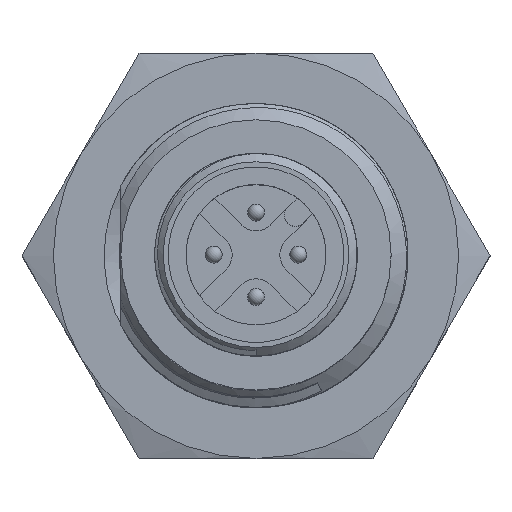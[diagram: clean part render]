
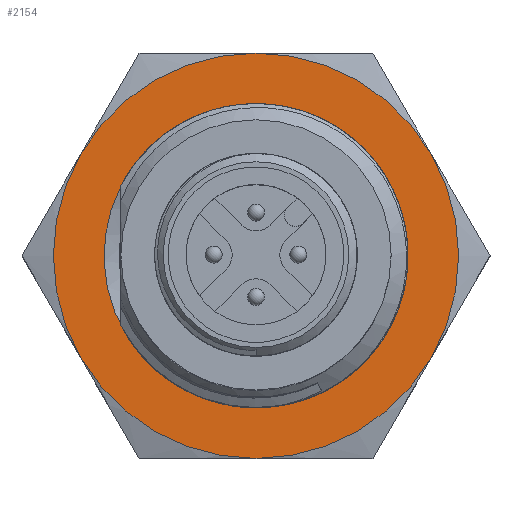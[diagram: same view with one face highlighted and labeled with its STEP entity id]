
A CAD part, top view. The second image highlights one B-rep face of the part: STEP entity #2154.
In plain terms, the highlighted planar face has unit normal (0, 0, 1).
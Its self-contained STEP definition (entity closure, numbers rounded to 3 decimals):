
#1928=FACE_BOUND('',#2647,.T.);
#1929=FACE_BOUND('',#2648,.T.);
#1977=PLANE('',#5367);
#2154=ADVANCED_FACE('',(#1928,#1929),#1977,.T.);
#2647=EDGE_LOOP('',(#3716,#3717));
#2648=EDGE_LOOP('',(#3718,#3719,#3720,#3721,#3722,#3723));
#2749=CIRCLE('',#5278,9.);
#2769=CIRCLE('',#5353,9.);
#2770=CIRCLE('',#5361,12.);
#2771=CIRCLE('',#5362,12.);
#2772=CIRCLE('',#5363,12.);
#2773=CIRCLE('',#5364,12.);
#2774=CIRCLE('',#5365,12.);
#2775=CIRCLE('',#5366,12.);
#3716=ORIENTED_EDGE('',*,*,#4417,.T.);
#3717=ORIENTED_EDGE('',*,*,#4737,.T.);
#3718=ORIENTED_EDGE('',*,*,#4768,.F.);
#3719=ORIENTED_EDGE('',*,*,#4769,.F.);
#3720=ORIENTED_EDGE('',*,*,#4770,.F.);
#3721=ORIENTED_EDGE('',*,*,#4771,.F.);
#3722=ORIENTED_EDGE('',*,*,#4772,.F.);
#3723=ORIENTED_EDGE('',*,*,#4773,.F.);
#4021=VERTEX_POINT('',#7215);
#4022=VERTEX_POINT('',#7217);
#4230=VERTEX_POINT('',#129425);
#4234=VERTEX_POINT('',#129443);
#4238=VERTEX_POINT('',#129461);
#4242=VERTEX_POINT('',#129479);
#4246=VERTEX_POINT('',#129497);
#4248=VERTEX_POINT('',#129512);
#4417=EDGE_CURVE('',#4022,#4021,#2749,.T.);
#4737=EDGE_CURVE('',#4021,#4022,#2769,.T.);
#4768=EDGE_CURVE('',#4230,#4234,#2770,.T.);
#4769=EDGE_CURVE('',#4248,#4230,#2771,.T.);
#4770=EDGE_CURVE('',#4246,#4248,#2772,.T.);
#4771=EDGE_CURVE('',#4242,#4246,#2773,.T.);
#4772=EDGE_CURVE('',#4238,#4242,#2774,.T.);
#4773=EDGE_CURVE('',#4234,#4238,#2775,.T.);
#5278=AXIS2_PLACEMENT_3D('',#7216,#5693,#5694);
#5353=AXIS2_PLACEMENT_3D('',#129407,#5925,#5926);
#5361=AXIS2_PLACEMENT_3D('',#129517,#5947,#5948);
#5362=AXIS2_PLACEMENT_3D('',#129518,#5949,#5950);
#5363=AXIS2_PLACEMENT_3D('',#129519,#5951,#5952);
#5364=AXIS2_PLACEMENT_3D('',#129520,#5953,#5954);
#5365=AXIS2_PLACEMENT_3D('',#129521,#5955,#5956);
#5366=AXIS2_PLACEMENT_3D('',#129522,#5957,#5958);
#5367=AXIS2_PLACEMENT_3D('',#129523,#5959,#5960);
#5693=DIRECTION('',(0.,0.,-1.));
#5694=DIRECTION('',(0.5,0.866,0.));
#5925=DIRECTION('',(0.,0.,-1.));
#5926=DIRECTION('',(0.5,0.866,0.));
#5947=DIRECTION('',(0.,0.,-1.));
#5948=DIRECTION('',(-0.866,-0.5,0.));
#5949=DIRECTION('',(0.,0.,-1.));
#5950=DIRECTION('',(0.,-1.,0.));
#5951=DIRECTION('',(0.,0.,-1.));
#5952=DIRECTION('',(0.866,-0.5,0.));
#5953=DIRECTION('',(0.,0.,-1.));
#5954=DIRECTION('',(0.866,0.5,0.));
#5955=DIRECTION('',(0.,0.,-1.));
#5956=DIRECTION('',(0.,1.,0.));
#5957=DIRECTION('',(0.,0.,-1.));
#5958=DIRECTION('',(-0.866,0.5,0.));
#5959=DIRECTION('',(0.,0.,1.));
#5960=DIRECTION('',(0.5,0.866,0.));
#7215=CARTESIAN_POINT('',(-1.43,8.886,25.));
#7216=CARTESIAN_POINT('',(0.,0.,
25.));
#7217=CARTESIAN_POINT('',(-6.094,6.623,25.));
#129407=CARTESIAN_POINT('',(0.,0.,
25.));
#129425=CARTESIAN_POINT('',(-10.392,-6.,25.));
#129443=CARTESIAN_POINT('',(-10.392,6.,25.));
#129461=CARTESIAN_POINT('',(0.,12.,25.));
#129479=CARTESIAN_POINT('',(10.392,6.,25.));
#129497=CARTESIAN_POINT('',(10.392,-6.,25.));
#129512=CARTESIAN_POINT('',(0.,-12.,25.));
#129517=CARTESIAN_POINT('',(0.,0.,
25.));
#129518=CARTESIAN_POINT('',(0.,0.,
25.));
#129519=CARTESIAN_POINT('',(0.,0.,
25.));
#129520=CARTESIAN_POINT('',(0.,0.,
25.));
#129521=CARTESIAN_POINT('',(0.,0.,
25.));
#129522=CARTESIAN_POINT('',(0.,0.,
25.));
#129523=CARTESIAN_POINT('',(4.832,-18.032,25.));
